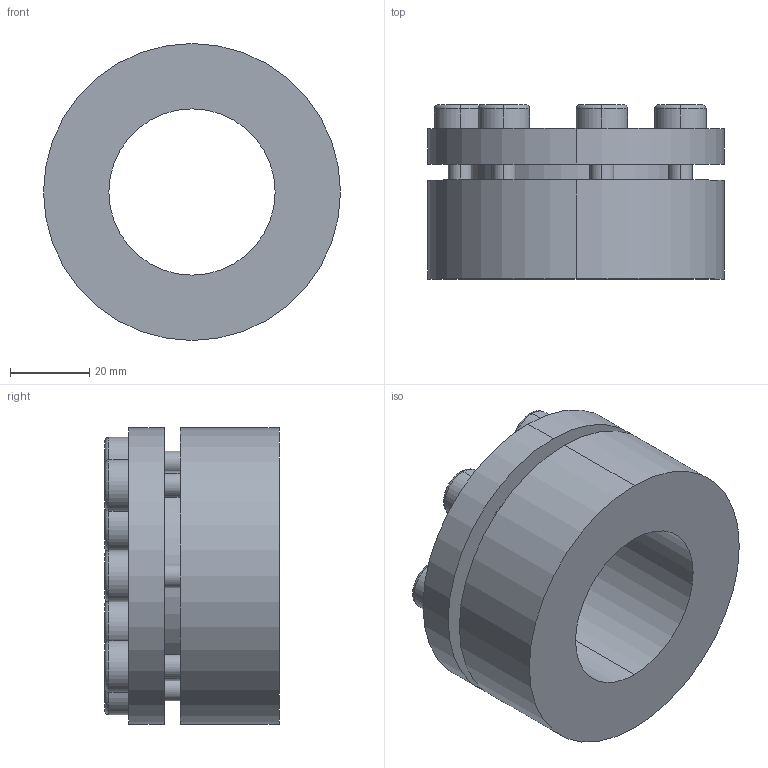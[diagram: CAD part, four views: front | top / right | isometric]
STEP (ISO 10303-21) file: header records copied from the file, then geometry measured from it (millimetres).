
FILE_DESCRIPTION (( 'STEP AP203' ), '1' );
FILE_NAME ('PL-H1 42-75.STEP', '2021-10-23T00:54:20', ( '' ), ( '' ), 'SwSTEP 2.0', 'SolidWorks 2018', '' );
FILE_SCHEMA (( 'CONFIG_CONTROL_DESIGN' ));
Length unit declared in the file: millimetre
Products named in the file (1): PL-H1 42-75
Bounding box: 75 x 44 x 75 mm (x, y, z)
Volume: 112227.1 mm3; surface area: 26140.3 mm2
Topology: 1 solids, 1 shells, 120 faces, 292 edges, 190 vertices
Faces by surface type: plane 60, cylinder 46, torus 14
Entity records: 3625 total; most frequent: DIRECTION 654, CARTESIAN_POINT 603, ORIENTED_EDGE 584, EDGE_CURVE 292, AXIS2_PLACEMENT_3D 241, VERTEX_POINT 190, LINE 172, VECTOR 172
